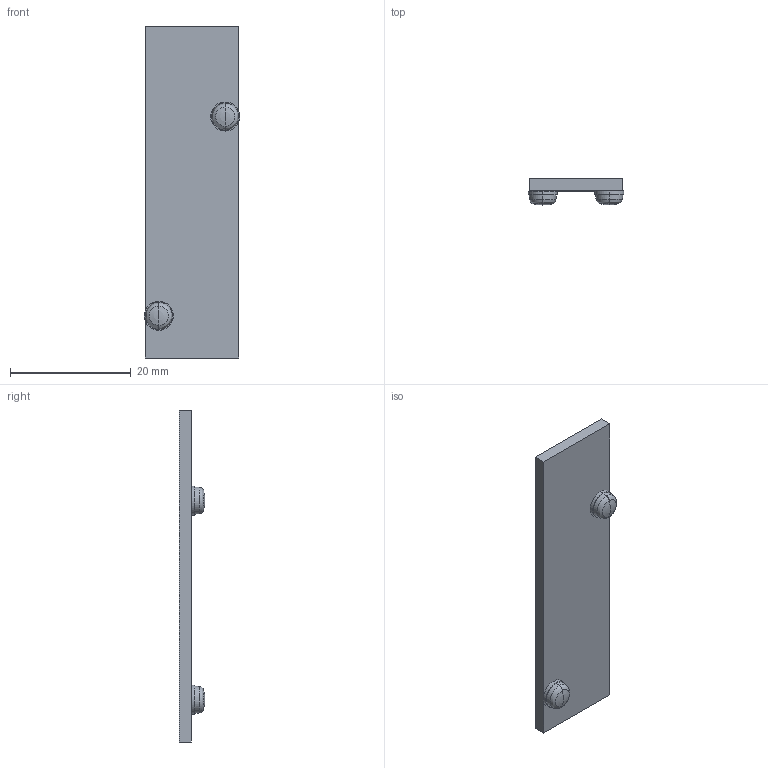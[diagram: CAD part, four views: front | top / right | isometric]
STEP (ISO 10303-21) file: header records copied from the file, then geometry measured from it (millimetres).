
FILE_DESCRIPTION( (''), '2;1');
FILE_NAME ('CVICAD02.3360.F15XBPP_21893.stp','2021-07-12T19:14:49',(''),(''),'spGate 12.6.6','','');
FILE_SCHEMA (('AUTOMOTIVE_DESIGN'));
Length unit declared in the file: millimetre
Bounding box: 15.8 x 4.3 x 55 mm (x, y, z)
Volume: 1770.8 mm3; surface area: 2036.2 mm2
Topology: 1 solids, 1 shells, 26 faces, 60 edges, 34 vertices
Faces by surface type: plane 10, bspline 8, sphere 4, cylinder 4
Entity records: 1285 total; most frequent: CARTESIAN_POINT 272, ORIENTED_EDGE 112, DIRECTION 100, COLOUR_RGB 83, PRESENTATION_STYLE_ASSIGNMENT 83, STYLED_ITEM 83, EDGE_CURVE 56, DRAUGHTING_PRE_DEFINED_CURVE_FONT 56
